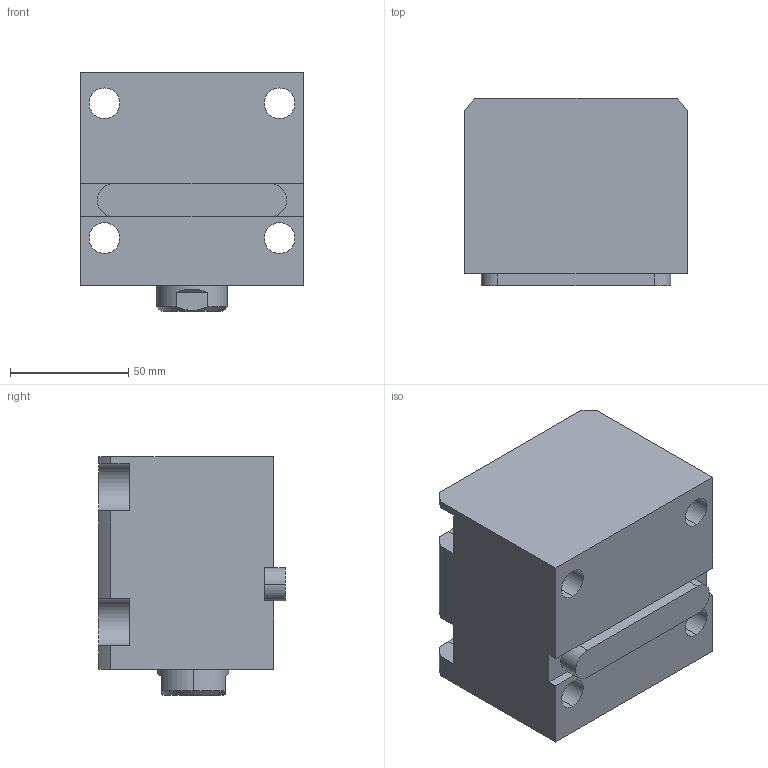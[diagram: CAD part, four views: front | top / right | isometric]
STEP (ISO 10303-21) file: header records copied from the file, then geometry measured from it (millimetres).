
FILE_DESCRIPTION (( 'STEP AP203' ), '1' );
FILE_NAME ('CHTB-LA50-30N.STEP', '2018-05-18T00:26:48', ( '' ), ( '' ), 'SwSTEP 2.0', 'SolidWorks 2015', '' );
FILE_SCHEMA (( 'CONFIG_CONTROL_DESIGN' ));
Length unit declared in the file: millimetre
Products named in the file (4): 活塞杆LA50-25N; 掛极LA50-30N; CHTM-SDMA50QG; CHTB-LA50-30N
Assembly tree (3 placements, depth 2):
  CHTB-LA50-30N
    掛极LA50-30N
    活塞杆LA50-25N
    CHTM-SDMA50QG
Bounding box: 94 x 79 x 101 mm (x, y, z)
Volume: 532785.8 mm3; surface area: 101061.9 mm2
Topology: 3 solids, 3 shells, 202 faces, 542 edges, 358 vertices
Faces by surface type: cylinder 96, plane 53, cone 23, torus 16, bspline 14
Entity records: 11255 total; most frequent: CARTESIAN_POINT 5992, ORIENTED_EDGE 1072, DIRECTION 958, EDGE_CURVE 536, AXIS2_PLACEMENT_3D 377, VERTEX_POINT 358, EDGE_LOOP 234, VECTOR 204
